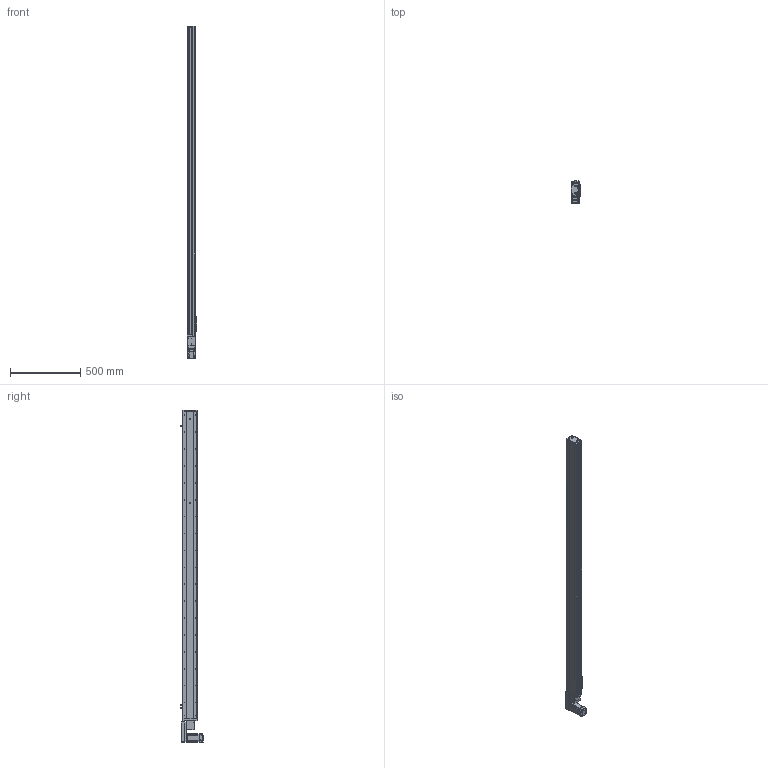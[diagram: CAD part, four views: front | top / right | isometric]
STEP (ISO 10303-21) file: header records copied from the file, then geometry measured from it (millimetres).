
FILE_DESCRIPTION (( 'STEP AP214' ), '1' );
FILE_NAME ('KSD100B-S2000-MLB-CR.STEP', '2019-09-06T09:31:07', ( '微软用户' ), ( '微软中国' ), 'SwSTEP 2.0', 'SolidWorks 2014', '' );
FILE_SCHEMA (( 'AUTOMOTIVE_DESIGN' ));
Length unit declared in the file: millimetre
Products named in the file (15): 100宽滚珠螺姆安装板1防护罩; 100宽滚珠螺姆安装板1; 100遵裔啣揤啣; 100遵裔啣2000俴最; 100宽侧板2000行程同步带; 100宽底板全封闭2000行程同步带; KSD100B-S2000-MLB-CR; 悵誘欶奻狟殏; 100宽马达安装板连板上下折丝杆同步带; 感应片100宽全封闭; U倰嫖萇EEㄜSX672; MHMD042G1CA_2_03; 100宽马达安装板同步带左; 100遵鎮湛假蚾啣蜊; 100宽端板同步带全封闭
Assembly tree (18 placements, depth 2):
  KSD100B-S2000-MLB-CR
    100宽底板全封闭2000行程同步带
    100宽侧板2000行程同步带  x2
    100遵裔啣2000俴最
    100遵裔啣揤啣  x2
    100宽滚珠螺姆安装板1
    100宽滚珠螺姆安装板1防护罩
    100宽端板同步带全封闭
    100遵鎮湛假蚾啣蜊
    100宽马达安装板同步带左
    U倰嫖萇EEㄜSX672  x3
    感应片100宽全封闭
    100宽马达安装板连板上下折丝杆同步带
    悵誘欶奻狟殏
    MHMD042G1CA_2_03
Bounding box: 70 x 156.2 x 2357 mm (x, y, z)
Volume: 4285605 mm3; surface area: 1858951.9 mm2
Topology: 17 solids, 18 shells, 2073 faces, 5814 edges, 3649 vertices
Faces by surface type: cylinder 953, plane 741, cone 359, bspline 20
Entity records: 74070 total; most frequent: CARTESIAN_POINT 11578, DIRECTION 10168, ORIENTED_EDGE 9304, EDGE_CURVE 4724, AXIS2_PLACEMENT_3D 3741, VERTEX_POINT 3127, VECTOR 2686, LINE 2686
